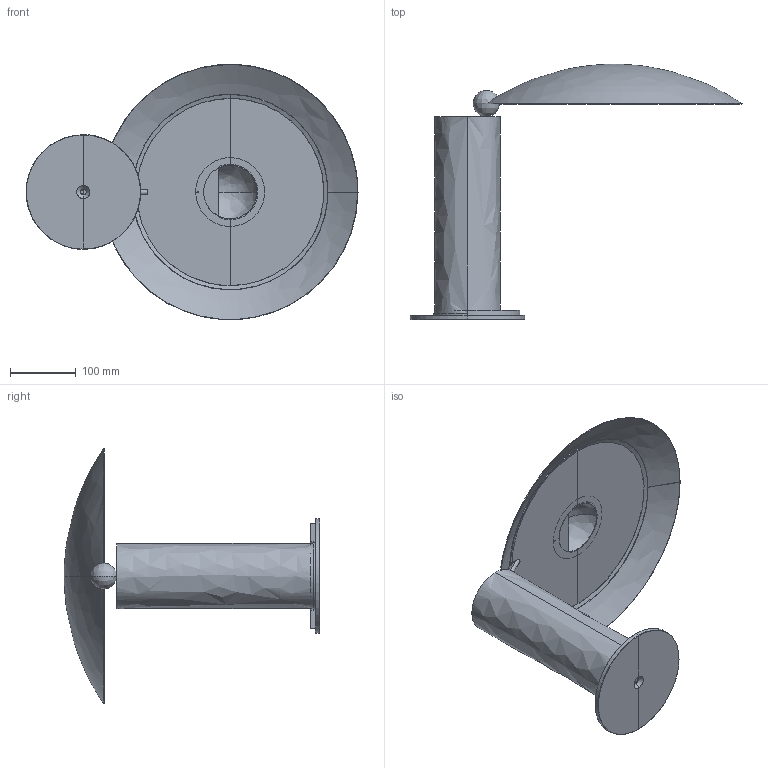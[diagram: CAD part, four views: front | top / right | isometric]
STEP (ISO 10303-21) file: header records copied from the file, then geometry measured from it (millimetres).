
FILE_DESCRIPTION(/* description */ (''),/* implementation_level */ '2;1');
FILE_NAME(/* name */ 'WASHINGTON',/* time_stamp */ '2012-06-01T15:09:22+02:00',/* author */ (''),/* organization */ (''),/* preprocessor_version */ 'ST-DEVELOPER v10',/* originating_system */ '',/* authorisation */ '');
FILE_SCHEMA (('CONFIG_CONTROL_DESIGN'));
Length unit declared in the file: millimetre
Products named in the file (1): 1
Bounding box: 506.5 x 390 x 389.48 mm (x, y, z)
Volume: 2866852.1 mm3; surface area: 606331.4 mm2
Topology: 6 solids, 7 shells, 61 faces, 142 edges, 78 vertices
Faces by surface type: bspline 61
Entity records: 2371 total; most frequent: CARTESIAN_POINT 1547, ORIENTED_EDGE 256, EDGE_CURVE 130, VERTEX_POINT 78, EDGE_LOOP 62, ADVANCED_FACE 61, FACE_OUTER_BOUND 61, B_SPLINE_CURVE_WITH_KNOTS 58
